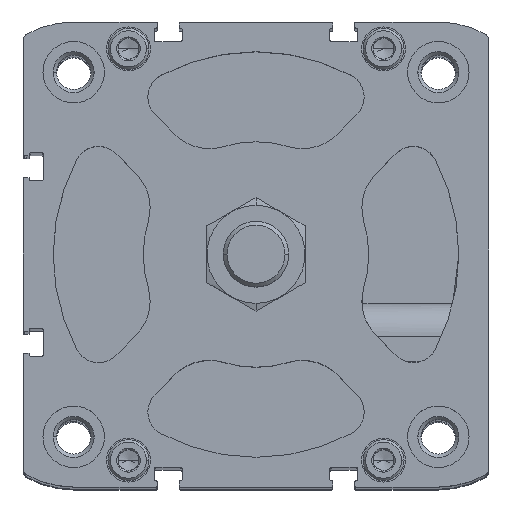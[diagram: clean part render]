
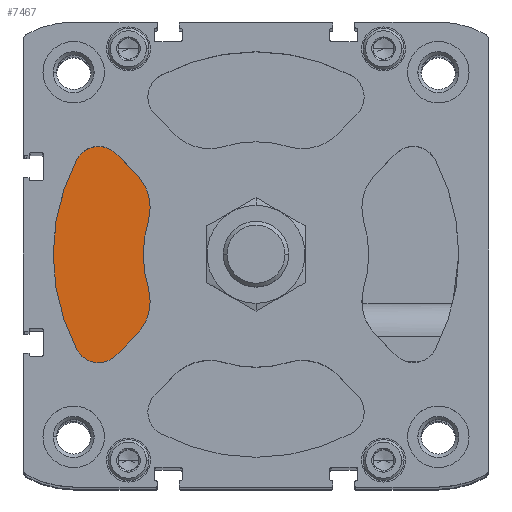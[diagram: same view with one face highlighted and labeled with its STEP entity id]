
A CAD part, top view. The second image highlights one B-rep face of the part: STEP entity #7467.
In plain terms, the highlighted planar face has unit normal (0, 0, 1).
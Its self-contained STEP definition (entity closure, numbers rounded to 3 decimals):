
#42 = CARTESIAN_POINT ( 'NONE',  ( -26.345, -7.885, -18.8 ) ) ;
#1071 = CARTESIAN_POINT ( 'NONE',  ( -26.345, 7.885, -18.8 ) ) ;
#1501 = AXIS2_PLACEMENT_3D ( 'NONE', #10738, #18991, #7743 ) ;
#1974 = CARTESIAN_POINT ( 'NONE',  ( -38.424, 20.393, -18.8 ) ) ;
#2303 = DIRECTION ( 'NONE',  ( -0.707, 0.707, 0. ) ) ;
#2865 = ORIENTED_EDGE ( 'NONE', *, *, #4361, .T. ) ;
#3067 = CARTESIAN_POINT ( 'NONE',  ( -29.356, 19.81, -18.8 ) ) ;
#3084 = ORIENTED_EDGE ( 'NONE', *, *, #11624, .T. ) ;
#3575 = DIRECTION ( 'NONE',  ( 0., 0., 1. ) ) ;
#3774 = EDGE_CURVE ( 'NONE', #15305, #18025, #6986, .T. ) ;
#3880 = AXIS2_PLACEMENT_3D ( 'NONE', #1974, #3575, #5416 ) ;
#3902 = LINE ( 'NONE', #13897, #8776 ) ;
#4280 = CIRCLE ( 'NONE', #14922, 12. ) ;
#4361 = EDGE_CURVE ( 'NONE', #18025, #12463, #16592, .T. ) ;
#4722 = PLANE ( 'NONE',  #17511 ) ;
#4784 = EDGE_CURVE ( 'NONE', #20332, #14760, #18611, .T. ) ;
#4811 = EDGE_CURVE ( 'NONE', #14760, #15305, #9371, .T. ) ;
#5416 = DIRECTION ( 'NONE',  ( 0., 1., 0. ) ) ;
#5675 = VERTEX_POINT ( 'NONE', #8930 ) ;
#6608 = EDGE_LOOP ( 'NONE', ( #8348, #8595, #2865, #19426, #14879, #3084, #16586, #18129, #13488 ) ) ;
#6986 = CIRCLE ( 'NONE', #1501, 6. ) ;
#7467 = ADVANCED_FACE ( 'NONE', ( #19198 ), #4722, .T. ) ;
#7723 = AXIS2_PLACEMENT_3D ( 'NONE', #7747, #14295, #20833 ) ;
#7743 = DIRECTION ( 'NONE',  ( 0., 1., 0. ) ) ;
#7747 = CARTESIAN_POINT ( 'NONE',  ( 0., 0., -18.8 ) ) ;
#7870 = DIRECTION ( 'NONE',  ( 0., 1., 0. ) ) ;
#8348 = ORIENTED_EDGE ( 'NONE', *, *, #4811, .T. ) ;
#8595 = ORIENTED_EDGE ( 'NONE', *, *, #3774, .T. ) ;
#8776 = VECTOR ( 'NONE', #2303, 1000. ) ;
#8930 = CARTESIAN_POINT ( 'NONE',  ( -34.181, 24.635, -18.8 ) ) ;
#9042 = CARTESIAN_POINT ( 'NONE',  ( -29.356, -19.81, -18.8 ) ) ;
#9371 = CIRCLE ( 'NONE', #15884, 49.5 ) ;
#10247 = DIRECTION ( 'NONE',  ( 0., 0., 1. ) ) ;
#10738 = CARTESIAN_POINT ( 'NONE',  ( -38.424, -20.393, -18.8 ) ) ;
#11404 = CARTESIAN_POINT ( 'NONE',  ( -37.842, 11.325, -18.8 ) ) ;
#11624 = EDGE_CURVE ( 'NONE', #12882, #18986, #18956, .T. ) ;
#12184 = CIRCLE ( 'NONE', #13546, 6. ) ;
#12463 = VERTEX_POINT ( 'NONE', #9042 ) ;
#12754 = CARTESIAN_POINT ( 'NONE',  ( 0., 0., -18.8 ) ) ;
#12873 = DIRECTION ( 'NONE',  ( 0., 0., 1. ) ) ;
#12882 = VERTEX_POINT ( 'NONE', #1071 ) ;
#13200 = DIRECTION ( 'NONE',  ( 0., 0., 1. ) ) ;
#13429 = VERTEX_POINT ( 'NONE', #42 ) ;
#13457 = CARTESIAN_POINT ( 'NONE',  ( -34.181, -24.635, -18.8 ) ) ;
#13476 = DIRECTION ( 'NONE',  ( 0.707, 0.707, 0. ) ) ;
#13488 = ORIENTED_EDGE ( 'NONE', *, *, #4784, .T. ) ;
#13546 = AXIS2_PLACEMENT_3D ( 'NONE', #18397, #10247, #20216 ) ;
#13668 = CARTESIAN_POINT ( 'NONE',  ( 0., 0., -18.8 ) ) ;
#13897 = CARTESIAN_POINT ( 'NONE',  ( -29.356, 19.81, -18.8 ) ) ;
#14295 = DIRECTION ( 'NONE',  ( 0., 0., 1. ) ) ;
#14478 = DIRECTION ( 'NONE',  ( 1., 0., 0. ) ) ;
#14725 = DIRECTION ( 'NONE',  ( 0., 0., 1. ) ) ;
#14760 = VERTEX_POINT ( 'NONE', #17544 ) ;
#14879 = ORIENTED_EDGE ( 'NONE', *, *, #17209, .F. ) ;
#14922 = AXIS2_PLACEMENT_3D ( 'NONE', #16735, #13200, #16633 ) ;
#15018 = CARTESIAN_POINT ( 'NONE',  ( -43.724, -23.205, -18.8 ) ) ;
#15305 = VERTEX_POINT ( 'NONE', #15018 ) ;
#15579 = AXIS2_PLACEMENT_3D ( 'NONE', #11404, #14725, #7870 ) ;
#15884 = AXIS2_PLACEMENT_3D ( 'NONE', #13668, #19993, #18491 ) ;
#16161 = CARTESIAN_POINT ( 'NONE',  ( -38.424, 26.393, -18.8 ) ) ;
#16586 = ORIENTED_EDGE ( 'NONE', *, *, #19379, .T. ) ;
#16592 = LINE ( 'NONE', #18620, #18580 ) ;
#16633 = DIRECTION ( 'NONE',  ( 0., 1., 0. ) ) ;
#16735 = CARTESIAN_POINT ( 'NONE',  ( -37.842, -11.325, -18.8 ) ) ;
#17209 = EDGE_CURVE ( 'NONE', #12882, #13429, #17990, .T. ) ;
#17377 = EDGE_CURVE ( 'NONE', #12463, #13429, #4280, .T. ) ;
#17511 = AXIS2_PLACEMENT_3D ( 'NONE', #12754, #12873, #14478 ) ;
#17544 = CARTESIAN_POINT ( 'NONE',  ( -43.724, 23.205, -18.8 ) ) ;
#17990 = CIRCLE ( 'NONE', #7723, 27.5 ) ;
#18025 = VERTEX_POINT ( 'NONE', #13457 ) ;
#18129 = ORIENTED_EDGE ( 'NONE', *, *, #20470, .T. ) ;
#18397 = CARTESIAN_POINT ( 'NONE',  ( -38.424, 20.393, -18.8 ) ) ;
#18491 = DIRECTION ( 'NONE',  ( 0., 1., 0. ) ) ;
#18580 = VECTOR ( 'NONE', #13476, 1000. ) ;
#18611 = CIRCLE ( 'NONE', #3880, 6. ) ;
#18620 = CARTESIAN_POINT ( 'NONE',  ( -34.181, -24.635, -18.8 ) ) ;
#18956 = CIRCLE ( 'NONE', #15579, 12. ) ;
#18986 = VERTEX_POINT ( 'NONE', #3067 ) ;
#18991 = DIRECTION ( 'NONE',  ( 0., 0., 1. ) ) ;
#19198 = FACE_OUTER_BOUND ( 'NONE', #6608, .T. ) ;
#19379 = EDGE_CURVE ( 'NONE', #18986, #5675, #3902, .T. ) ;
#19426 = ORIENTED_EDGE ( 'NONE', *, *, #17377, .T. ) ;
#19993 = DIRECTION ( 'NONE',  ( 0., 0., 1. ) ) ;
#20216 = DIRECTION ( 'NONE',  ( 0., 1., 0. ) ) ;
#20332 = VERTEX_POINT ( 'NONE', #16161 ) ;
#20470 = EDGE_CURVE ( 'NONE', #5675, #20332, #12184, .T. ) ;
#20833 = DIRECTION ( 'NONE',  ( 0., 1., 0. ) ) ;
